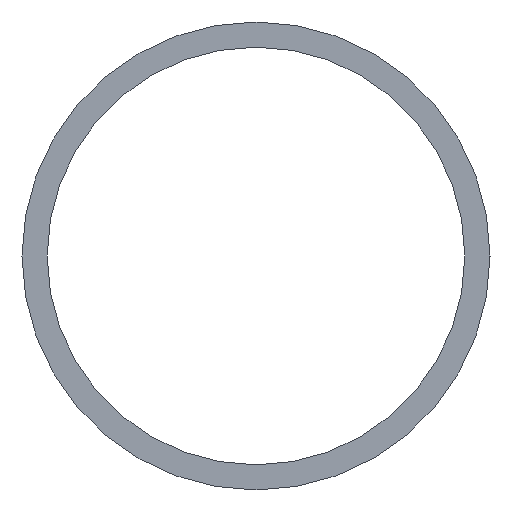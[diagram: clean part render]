
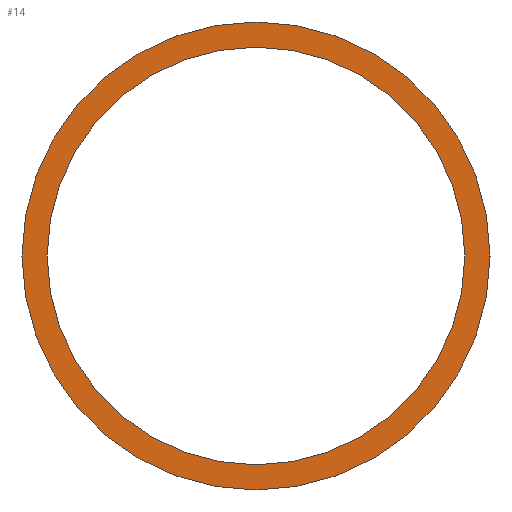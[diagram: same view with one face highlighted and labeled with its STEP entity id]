
A CAD part, front view. The second image highlights one B-rep face of the part: STEP entity #14.
In plain terms, the highlighted planar face has unit normal (0, -1, 0).
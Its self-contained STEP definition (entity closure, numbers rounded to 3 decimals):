
#3 = CARTESIAN_POINT ( 'NONE',  ( 6929.15, 1960., 3495.85 ) ) ;
#6 = DIRECTION ( 'NONE',  ( 0., -1., 0. ) ) ;
#14 = ADVANCED_FACE ( 'NONE', ( #137, #38 ), #84, .T. ) ;
#15 = VERTEX_POINT ( 'NONE', #212 ) ;
#30 = AXIS2_PLACEMENT_3D ( 'NONE', #201, #40, #209 ) ;
#32 = EDGE_CURVE ( 'NONE', #66, #189, #94, .T. ) ;
#38 = FACE_OUTER_BOUND ( 'NONE', #129, .T. ) ;
#40 = DIRECTION ( 'NONE',  ( 0., -1., 0. ) ) ;
#41 = AXIS2_PLACEMENT_3D ( 'NONE', #75, #175, #143 ) ;
#53 = CARTESIAN_POINT ( 'NONE',  ( 6926.55, 1960., 3495.85 ) ) ;
#62 = DIRECTION ( 'NONE',  ( 0., -1., 0. ) ) ;
#64 = VERTEX_POINT ( 'NONE', #53 ) ;
#66 = VERTEX_POINT ( 'NONE', #147 ) ;
#72 = DIRECTION ( 'NONE',  ( 1., 0., 0. ) ) ;
#73 = AXIS2_PLACEMENT_3D ( 'NONE', #169, #6, #104 ) ;
#75 = CARTESIAN_POINT ( 'NONE',  ( 6905., 1960., 3495.85 ) ) ;
#78 = CARTESIAN_POINT ( 'NONE',  ( 6905., 1960., 3495.85 ) ) ;
#83 = CARTESIAN_POINT ( 'NONE',  ( 6905., 1960., 3495.85 ) ) ;
#84 = PLANE ( 'NONE',  #41 ) ;
#86 = DIRECTION ( 'NONE',  ( 0., -1., 0. ) ) ;
#91 = EDGE_CURVE ( 'NONE', #189, #66, #163, .T. ) ;
#94 = CIRCLE ( 'NONE', #30, 24.15 ) ;
#102 = AXIS2_PLACEMENT_3D ( 'NONE', #78, #86, #72 ) ;
#104 = DIRECTION ( 'NONE',  ( 1., 0., 0. ) ) ;
#105 = CIRCLE ( 'NONE', #119, 21.55 ) ;
#107 = DIRECTION ( 'NONE',  ( 1., 0., 0. ) ) ;
#109 = CIRCLE ( 'NONE', #102, 21.55 ) ;
#119 = AXIS2_PLACEMENT_3D ( 'NONE', #83, #62, #107 ) ;
#129 = EDGE_LOOP ( 'NONE', ( #176, #140 ) ) ;
#134 = ORIENTED_EDGE ( 'NONE', *, *, #203, .F. ) ;
#137 = FACE_BOUND ( 'NONE', #158, .T. ) ;
#140 = ORIENTED_EDGE ( 'NONE', *, *, #91, .T. ) ;
#143 = DIRECTION ( 'NONE',  ( 1., 0., 0. ) ) ;
#147 = CARTESIAN_POINT ( 'NONE',  ( 6880.85, 1960., 3495.85 ) ) ;
#158 = EDGE_LOOP ( 'NONE', ( #134, #182 ) ) ;
#163 = CIRCLE ( 'NONE', #73, 24.15 ) ;
#169 = CARTESIAN_POINT ( 'NONE',  ( 6905., 1960., 3495.85 ) ) ;
#172 = EDGE_CURVE ( 'NONE', #64, #15, #109, .T. ) ;
#175 = DIRECTION ( 'NONE',  ( 0., -1., 0. ) ) ;
#176 = ORIENTED_EDGE ( 'NONE', *, *, #32, .T. ) ;
#182 = ORIENTED_EDGE ( 'NONE', *, *, #172, .F. ) ;
#189 = VERTEX_POINT ( 'NONE', #3 ) ;
#201 = CARTESIAN_POINT ( 'NONE',  ( 6905., 1960., 3495.85 ) ) ;
#203 = EDGE_CURVE ( 'NONE', #15, #64, #105, .T. ) ;
#209 = DIRECTION ( 'NONE',  ( 1., 0., 0. ) ) ;
#212 = CARTESIAN_POINT ( 'NONE',  ( 6883.45, 1960., 3495.85 ) ) ;
